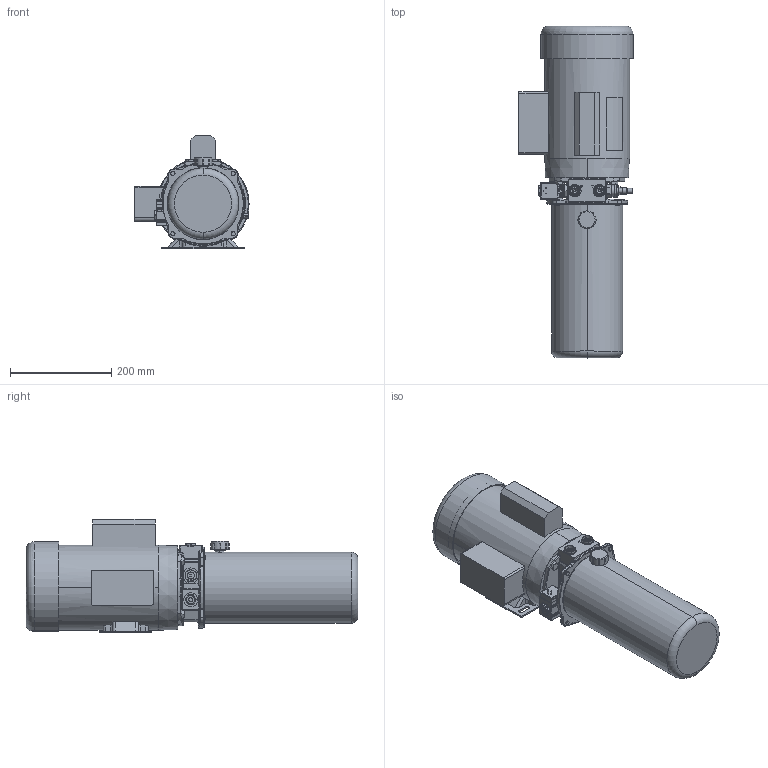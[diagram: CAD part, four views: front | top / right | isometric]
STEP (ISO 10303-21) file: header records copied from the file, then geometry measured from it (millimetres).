
FILE_DESCRIPTION((''),'2;1');
FILE_NAME('648828_SW0001','2014-12-22T',('DA10877'),('OILDYNE'),'PRO/ENGINEER BY PARAMETRIC TECHNOLOGY CORPORATION, 2009300','PRO/ENGINEER BY PARAMETRIC TECHNOLOGY CORPORATION, 2009300','');
FILE_SCHEMA(('CONFIG_CONTROL_DESIGN'));
Length unit declared in the file: inch
Products named in the file (1): 648828_SW0001
Bounding box: 225.66 x 655.85 x 224.05 mm (x, y, z)
Surface area: 518647.8 mm2 (no closed solid volume)
Topology: 0 solids, 49 shells, 930 faces, 2847 edges, 1926 vertices
Faces by surface type: plane 345, cylinder 301, cone 147, bspline 87, sphere 26, torus 20, extrusion 4
Entity records: 40856 total; most frequent: CARTESIAN_POINT 16482, DIRECTION 4865, ORIENTED_EDGE 4863, EDGE_CURVE 2844, VERTEX_POINT 1926, AXIS2_PLACEMENT_3D 1772, VECTOR 1321, LINE 1317
